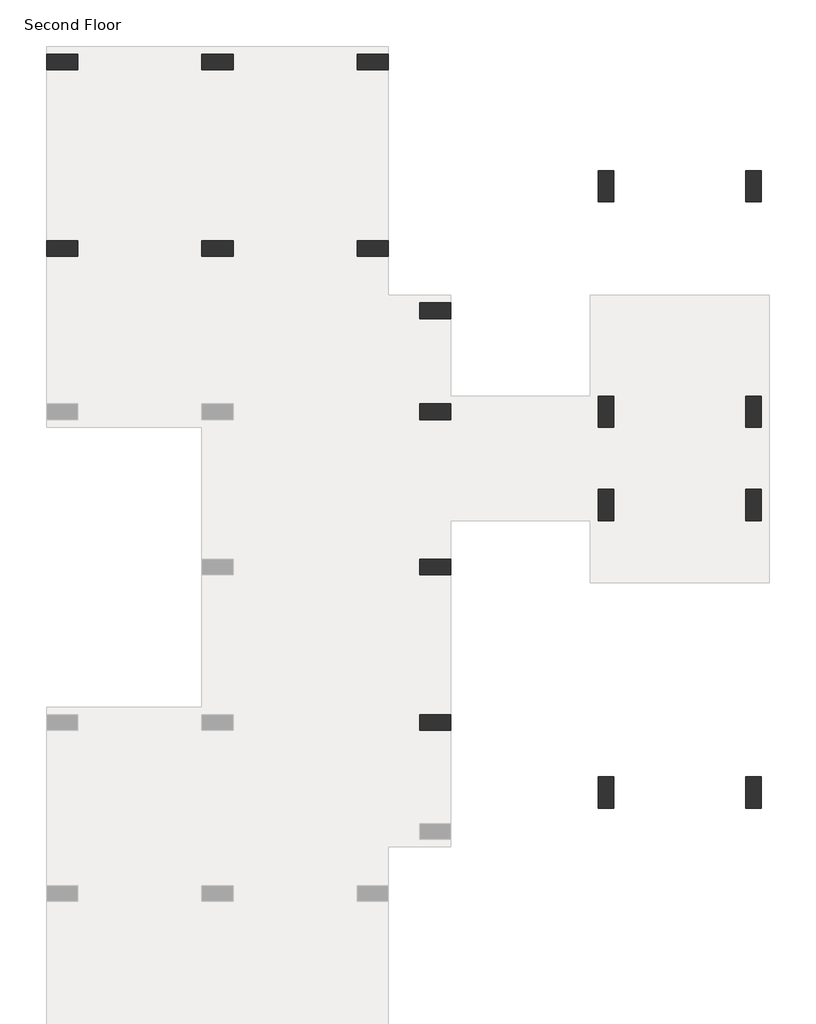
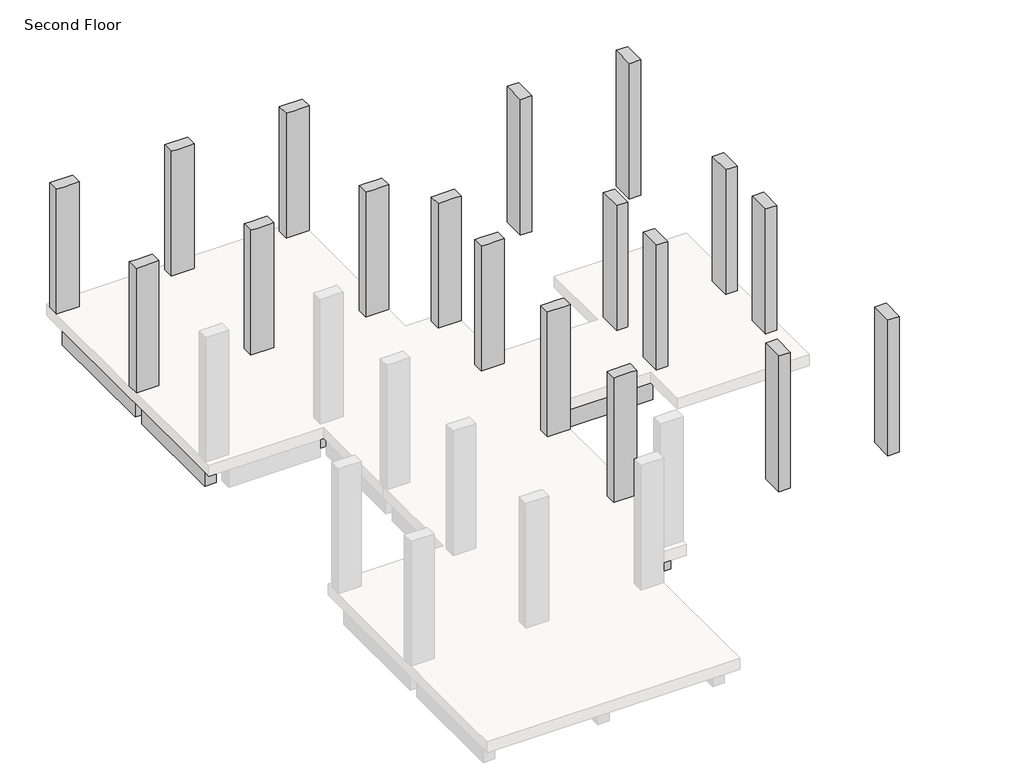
# One storey, part 2 of 2: 22 beams, 18 columns.
"""IFC4 building model written with IfcOpenShell, lengths in millimetres."""

import ifcopenshell
import ifcopenshell.guid

model = None  # the IFC model being written
_history = None  # IfcOwnerHistory: only IFC2X3 demands one
_inside = {}  # id of a spatial element -> (the spatial element, [elements in it])
_under = {}  # id of a project, library or spatial element -> (it, [spatial elements below it])
_declared = {}  # id of a project -> (the project, [libraries it declares])
_typed = {}  # id of a type object -> (the type object, [elements of that type])
_made_of = {}  # id of a material, layer set ... -> (it, [elements and type objects made of it])


def new_model(schema):
    """Start an empty IFC model of exactly this schema.

    Asked for "IFC4X3", IfcOpenShell would pick the latest addendum, in which some entities
    have other attributes; the version numbers below select the first issue.
    IFC2X3 requires an IfcOwnerHistory on every rooted entity: one is made here for all.
    """
    global model, _history
    if schema == "IFC4X3":
        model = ifcopenshell.file(schema_version=(4, 3, 0, 0))
    else:
        model = ifcopenshell.file(schema=schema)
    _inside.clear()
    _under.clear()
    _declared.clear()
    _typed.clear()
    _made_of.clear()
    _history = None
    if model.schema == "IFC2X3":
        org = make("IfcOrganization", Name="unknown")
        user = make(
            "IfcPersonAndOrganization",
            ThePerson=make("IfcPerson", FamilyName="unknown"),
            TheOrganization=org,
        )
        app = make(
            "IfcApplication",
            ApplicationDeveloper=org,
            Version="unknown",
            ApplicationFullName="unknown",
            ApplicationIdentifier="unknown",
        )
        _history = make(
            "IfcOwnerHistory",
            OwningUser=user,
            OwningApplication=app,
            ChangeAction="ADDED",
            CreationDate=0,
        )
    return model


def make(cls, **values):
    """One entity of the class cls with the attributes given. An attribute that is None is left unset."""
    return model.create_entity(
        cls, **{name: value for name, value in values.items() if value is not None}
    )


def rooted(cls, **values):
    """An entity with a GlobalId (a new one), such as an element, a storey or a relation."""
    return make(cls, GlobalId=ifcopenshell.guid.new(), OwnerHistory=_history, **values)


def si_unit(unit_type, name, prefix=None):
    """IfcSIUnit, for example si_unit("LENGTHUNIT", "METRE", prefix="MILLI")."""
    return make("IfcSIUnit", UnitType=unit_type, Prefix=prefix, Name=name)


def assignment(units):
    """IfcUnitAssignment: the units of a project."""
    return None if units is None else make("IfcUnitAssignment", Units=units)


def point(xyz):
    """IfcCartesianPoint."""
    return None if xyz is None else make("IfcCartesianPoint", Coordinates=xyz)


def direction(xyz):
    """IfcDirection."""
    return None if xyz is None else make("IfcDirection", DirectionRatios=xyz)


def frame(location, z_axis=None, x_axis=None):
    """IfcAxis2Placement3D, a coordinate frame: its origin and axes. An axis left out is left unset."""
    return make(
        "IfcAxis2Placement3D",
        Location=point(location),
        Axis=direction(z_axis),
        RefDirection=direction(x_axis),
    )


def origin():
    """The frame at (0, 0, 0) with its axes left unset."""
    return frame((0.0, 0.0, 0.0))


def place(relative_to, where):
    """IfcLocalPlacement: puts the frame where relative to a parent placement (None: the world)."""
    return make(
        "IfcLocalPlacement", PlacementRelTo=relative_to, RelativePlacement=where
    )


def context(
    kind, dimensions, precision=None, world=None, true_north=None, identifier=None
):
    """IfcGeometricRepresentationContext, for example the 3D "Model" context."""
    return make(
        "IfcGeometricRepresentationContext",
        ContextIdentifier=identifier,
        ContextType=kind,
        CoordinateSpaceDimension=dimensions,
        Precision=precision,
        WorldCoordinateSystem=world,
        TrueNorth=true_north,
    )


def project(units=None, contexts=None):
    """IfcProject with its units and contexts."""
    return rooted(
        "IfcProject",
        Name="project",
        RepresentationContexts=contexts,
        UnitsInContext=assignment(units),
    )


def spatial(cls, under=None, at=None, **own):
    """A site, building, storey or space (cls), placed at a placement, below another one or the project."""
    s = rooted(cls, ObjectPlacement=at, **own)
    if under is not None:
        _under.setdefault(under.id(), (under, []))[1].append(s)
    return s


def polyline(points):
    """IfcPolyline through the points."""
    return make("IfcPolyline", Points=[point(p) for p in points])


def outline(outer, holes=None, kind="AREA"):
    """IfcArbitraryClosedProfileDef: a profile drawn as a closed curve; with holes, ...WithVoids."""
    if holes is None:
        return make("IfcArbitraryClosedProfileDef", ProfileType=kind, OuterCurve=outer)
    return make(
        "IfcArbitraryProfileDefWithVoids",
        ProfileType=kind,
        OuterCurve=outer,
        InnerCurves=holes,
    )


def extrude(swept, where, along, depth):
    """IfcExtrudedAreaSolid: the profile swept, set in the frame where, extruded along a direction by depth."""
    return make(
        "IfcExtrudedAreaSolid",
        SweptArea=swept,
        Position=where,
        ExtrudedDirection=direction(along),
        Depth=depth,
    )


def faces_of(points, faces, orient=None, outer=None):
    """IfcFace entities. A face is a list of loops; a loop is a list of indices into points, from 0.

    orient and outer hold one flag for each loop. By default every Orientation is true, the
    first loop of a face is its IfcFaceOuterBound and the others are IfcFaceBound.
    """
    made = []
    for i, loops in enumerate(faces):
        bounds = []
        for j, loop in enumerate(loops):
            is_outer = j == 0 if outer is None else outer[i][j]
            bounds.append(
                make(
                    "IfcFaceOuterBound" if is_outer else "IfcFaceBound",
                    Bound=make("IfcPolyLoop", Polygon=[points[k] for k in loop]),
                    Orientation=True if orient is None else orient[i][j],
                )
            )
        made.append(make("IfcFace", Bounds=bounds))
    return made


def faceted_brep(points, faces, orient=None, outer=None, voids=None):
    """IfcFacetedBrep: a solid bounded by flat faces; with voids (closed shells), ...WithVoids."""
    shared = [point(p) for p in points]
    hull = make("IfcClosedShell", CfsFaces=faces_of(shared, faces, orient, outer))
    if voids is None:
        return make("IfcFacetedBrep", Outer=hull)
    return make(
        "IfcFacetedBrepWithVoids",
        Outer=hull,
        Voids=[
            make(cls, CfsFaces=faces_of(shared, fs, o, b)) for cls, fs, o, b in voids
        ],
    )


def shape(context_of_items, identifier, shape_type, items):
    """IfcShapeRepresentation: the items that make up one representation, for example the "Body"."""
    return make(
        "IfcShapeRepresentation",
        ContextOfItems=context_of_items,
        RepresentationIdentifier=identifier,
        RepresentationType=shape_type,
        Items=items,
    )


def made_of(thing, what):
    """Note that an element or type object is made of a material, layer set ...; save() writes the relation."""
    if what is not None:
        _made_of.setdefault(what.id(), (what, []))[1].append(thing)
    return thing


def element(
    cls,
    number,
    at=None,
    inside=None,
    cuts=None,
    type_object=None,
    material=None,
    context=None,
    identifier="Body",
    shape_type=None,
    held_by="IfcProductDefinitionShape",
    body=None,
    shapes=None,
    **own,
):
    """One element of the class cls, such as IfcWall. Its Tag is "e" and its number.

    at: its placement. inside: the storey or other place that contains it. cuts: it is an
    opening in that element (IfcRelVoidsElement). A single representation is given by context,
    identifier, shape_type and body (its items); several are given by shapes. held_by: the class
    of the entity that holds the representations. save() writes the other relations.
    """
    e = rooted(cls, Tag="e%d" % number, ObjectPlacement=at, **own)
    if body is not None:
        shapes = [shape(context, identifier, shape_type, body)]
    if shapes is not None:
        e.Representation = make(held_by, Representations=shapes)
    if inside is not None:
        _inside.setdefault(inside.id(), (inside, []))[1].append(e)
    if cuts is not None:
        rooted(
            "IfcRelVoidsElement", RelatingBuildingElement=cuts, RelatedOpeningElement=e
        )
    if type_object is not None:
        _typed.setdefault(type_object.id(), (type_object, []))[1].append(e)
    return made_of(e, material)


def aggregate(whole, parts):
    """IfcRelAggregates: a whole, such as a stair, and the parts it consists of."""
    return rooted("IfcRelAggregates", RelatingObject=whole, RelatedObjects=parts)


def save(model, path):
    """Write the relations noted so far, then the file.

    IfcRelAggregates (storeys below a building ...), IfcRelContainedInSpatialStructure (elements
    in a storey), IfcRelDefinesByType, IfcRelAssociatesMaterial and IfcRelDeclares: one each for
    every whole, place, type object, material and project.
    """
    for whole, parts in _under.values():
        aggregate(whole, parts)
    for where, things in _inside.values():
        rooted(
            "IfcRelContainedInSpatialStructure",
            RelatedElements=things,
            RelatingStructure=where,
        )
    for kind, things in _typed.values():
        rooted("IfcRelDefinesByType", RelatedObjects=things, RelatingType=kind)
    for what, things in _made_of.values():
        rooted("IfcRelAssociatesMaterial", RelatedObjects=things, RelatingMaterial=what)
    for by, libraries in _declared.values():
        rooted("IfcRelDeclares", RelatingContext=by, RelatedDefinitions=libraries)
    model.write(path)


model = new_model("IFC4")

# Units and contexts
model_context = context("Model", 3, world=origin())
ifc_project = project(units=[si_unit("LENGTHUNIT", "METRE", prefix="MILLI")], contexts=[model_context])

# Site, building, storey
site = spatial("IfcSite", under=ifc_project)
building = spatial("IfcBuilding", under=site)
storey = spatial("IfcBuildingStorey", under=building, Name="Second Floor", Elevation=3810.0)

# Beams
placement = place(None, origin())
element("IfcBeam", 1, ObjectType="Concrete-Rectangular Beam : 12 x 24", at=placement, inside=storey, context=model_context, shape_type="SweptSolid", body=[
    extrude(outline(polyline([(-20351.2093661, 22096.7691779), (-20351.2093661, 22401.5691779), (-17912.8093661, 22401.5691779), (-17912.8093661, 22096.7691779), (-20351.2093661, 22096.7691779)])), frame((0.0, 0.0, 2895.6), z_axis=(0.0, 0.0, 1.0), x_axis=(1.0, 0.0, 0.0)), (0.0, 0.0, 1.0), 609.6),
])
element("IfcBeam", 2, ObjectType="Concrete-Rectangular Beam : 12 x 24", at=placement, inside=storey, context=model_context, shape_type="SweptSolid", body=[
    extrude(outline(polyline([(-17303.2093661, 22096.7691779), (-17303.2093661, 22401.5691779), (-14864.8093661, 22401.5691779), (-14864.8093661, 22096.7691779), (-17303.2093661, 22096.7691779)])), frame((0.0, 0.0, 2895.6), z_axis=(0.0, 0.0, 1.0), x_axis=(1.0, 0.0, 0.0)), (0.0, 0.0, 1.0), 609.6),
])
element("IfcBeam", 3, ObjectType="Concrete-Rectangular Beam : 12 x 24", at=placement, inside=storey, context=model_context, shape_type="SweptSolid", body=[
    extrude(outline(polyline([(-14712.4093661, 22096.7691779), (-14407.6093661, 22096.7691779), (-14407.6093661, 18743.9691779), (-14712.4093661, 18743.9691779), (-14712.4093661, 22096.7691779)])), frame((0.0, 0.0, 2895.6), z_axis=(0.0, 0.0, 1.0), x_axis=(1.0, 0.0, 0.0)), (0.0, 0.0, 1.0), 609.6),
])
element("IfcBeam", 4, ObjectType="Concrete-Rectangular Beam : 12 x 24", at=placement, inside=storey, context=model_context, shape_type="Brep", body=[
    faceted_brep([(-14712.4093661, 17219.9691779, 3505.2), (-14407.6093661, 17219.9691779, 3505.2), (-14407.6093661, 17524.7691779, 3505.2), (-14407.6093661, 18439.1691779, 3505.2), (-14712.4093661, 18439.1691779, 3505.2), (-14712.4093661, 17219.9691779, 2895.6), (-14712.4093661, 18439.1691779, 2895.6), (-14407.6093661, 17219.9691779, 2895.6), (-14407.6093661, 18439.1691779, 2895.6), (-14407.6093661, 17524.7691779, 2895.6)], [[[0, 1, 2, 3, 4]], [[5, 0, 4, 6]], [[7, 5, 6, 8, 9]], [[1, 7, 9, 8, 3, 2]], [[4, 3, 8, 6]], [[1, 0, 5, 7]]]),
])
element("IfcBeam", 5, ObjectType="Concrete-Rectangular Beam : 12 x 24", at=placement, inside=storey, context=model_context, shape_type="SweptSolid", body=[
    extrude(outline(polyline([(-14407.6093661, 17219.9691779), (-14407.6093661, 17524.7691779), (-13645.6093661, 17524.7691779), (-13645.6093661, 17219.9691779), (-14407.6093661, 17219.9691779)])), frame((0.0, 0.0, 2895.6), z_axis=(0.0, 0.0, 1.0), x_axis=(1.0, 0.0, 0.0)), (0.0, 0.0, 1.0), 609.6),
])
element("IfcBeam", 6, ObjectType="Concrete-Rectangular Beam : 12 x 24", at=placement, inside=storey, context=model_context, shape_type="SweptSolid", body=[
    extrude(outline(polyline([(-13493.2093661, 17219.9691779), (-13188.4093661, 17219.9691779), (-13188.4093661, 15543.5691779), (-13493.2093661, 15543.5691779), (-13493.2093661, 17219.9691779)])), frame((0.0, 0.0, 2895.6), z_axis=(0.0, 0.0, 1.0), x_axis=(1.0, 0.0, 0.0)), (0.0, 0.0, 1.0), 609.6),
])
element("IfcBeam", 7, ObjectType="Concrete-Rectangular Beam : 12 x 24", at=placement, inside=storey, context=model_context, shape_type="Brep", body=[
    faceted_brep([(-13188.4093661, 15238.7691779, 3505.2), (-13493.2093661, 15238.7691779, 3505.2), (-13493.2093661, 12495.5691779, 3505.2), (-13188.4093661, 12495.5691779, 3505.2), (-13188.4093661, 13409.9691779, 3505.2), (-13188.4093661, 13714.7691779, 3505.2), (-13493.2093661, 15238.7691779, 2895.6), (-13493.2093661, 12495.5691779, 2895.6), (-13188.4093661, 15238.7691779, 2895.6), (-13188.4093661, 13714.7691779, 2895.6), (-13188.4093661, 13409.9691779, 2895.6), (-13188.4093661, 12495.5691779, 2895.6)], [[[0, 1, 2, 3, 4, 5]], [[1, 6, 7, 2]], [[6, 8, 9, 10, 11, 7]], [[8, 0, 5, 4, 3, 11, 10, 9]], [[6, 1, 0, 8]], [[3, 2, 7, 11]]]),
])
element("IfcBeam", 8, ObjectType="Concrete-Rectangular Beam : 12 x 24", at=placement, inside=storey, context=model_context, shape_type="SweptSolid", body=[
    extrude(outline(polyline([(-13493.2093661, 12190.7691779), (-13188.4093661, 12190.7691779), (-13188.4093661, 9447.5691779), (-13493.2093661, 9447.5691779), (-13493.2093661, 12190.7691779)])), frame((0.0, 0.0, 2895.6), z_axis=(0.0, 0.0, 1.0), x_axis=(1.0, 0.0, 0.0)), (0.0, 0.0, 1.0), 609.6),
])
element("IfcBeam", 9, ObjectType="Concrete-Rectangular Beam : 12 x 24", at=placement, inside=storey, context=model_context, shape_type="SweptSolid", body=[
    extrude(outline(polyline([(-13493.2093661, 9142.7691779), (-13188.4093661, 9142.7691779), (-13188.4093661, 7313.9691779), (-13493.2093661, 7313.9691779), (-13493.2093661, 9142.7691779)])), frame((0.0, 0.0, 2895.6), z_axis=(0.0, 0.0, 1.0), x_axis=(1.0, 0.0, 0.0)), (0.0, 0.0, 1.0), 609.6),
])
element("IfcBeam", 10, ObjectType="Concrete-Rectangular Beam : 12 x 24", at=placement, inside=storey, context=model_context, shape_type="SweptSolid", body=[
    extrude(outline(polyline([(-20503.6093661, 15543.5691779), (-20808.4093661, 15543.5691779), (-20808.4093661, 18439.1691779), (-20503.6093661, 18439.1691779), (-20503.6093661, 15543.5691779)])), frame((0.0, 0.0, 2895.6), z_axis=(0.0, 0.0, 1.0), x_axis=(1.0, 0.0, 0.0)), (0.0, 0.0, 1.0), 609.6),
])
element("IfcBeam", 11, ObjectType="Concrete-Rectangular Beam : 12 x 24", at=placement, inside=storey, context=model_context, shape_type="SweptSolid", body=[
    extrude(outline(polyline([(-20808.4093661, 22096.7691779), (-20503.6093661, 22096.7691779), (-20503.6093661, 18743.9691779), (-20808.4093661, 18743.9691779), (-20808.4093661, 22096.7691779)])), frame((0.0, 0.0, 2895.6), z_axis=(0.0, 0.0, 1.0), x_axis=(1.0, 0.0, 0.0)), (0.0, 0.0, 1.0), 609.6),
])
element("IfcBeam", 12, ObjectType="Concrete-Rectangular Beam : 12 x 24", at=placement, inside=storey, context=model_context, shape_type="SweptSolid", body=[
    extrude(outline(polyline([(-20351.2093661, 18439.1691779), (-20351.2093661, 18743.9691779), (-17912.8093661, 18743.9691779), (-17912.8093661, 18439.1691779), (-20351.2093661, 18439.1691779)])), frame((0.0, 0.0, 2895.6), z_axis=(0.0, 0.0, 1.0), x_axis=(1.0, 0.0, 0.0)), (0.0, 0.0, 1.0), 609.6),
])
element("IfcBeam", 13, ObjectType="Concrete-Rectangular Beam : 12 x 24", at=placement, inside=storey, context=model_context, shape_type="SweptSolid", body=[
    extrude(outline(polyline([(-17455.6093661, 18743.9691779), (-17760.4093661, 18743.9691779), (-17760.4093661, 22096.7691779), (-17455.6093661, 22096.7691779), (-17455.6093661, 18743.9691779)])), frame((0.0, 0.0, 2895.6), z_axis=(0.0, 0.0, 1.0), x_axis=(1.0, 0.0, 0.0)), (0.0, 0.0, 1.0), 609.6),
])
element("IfcBeam", 14, ObjectType="Concrete-Rectangular Beam : 12 x 24", at=placement, inside=storey, context=model_context, shape_type="SweptSolid", body=[
    extrude(outline(polyline([(-17760.4093661, 18439.1691779), (-17455.6093661, 18439.1691779), (-17455.6093661, 15543.5691779), (-17760.4093661, 15543.5691779), (-17760.4093661, 18439.1691779)])), frame((0.0, 0.0, 2895.6), z_axis=(0.0, 0.0, 1.0), x_axis=(1.0, 0.0, 0.0)), (0.0, 0.0, 1.0), 609.6),
])
element("IfcBeam", 15, ObjectType="Concrete-Rectangular Beam : 12 x 24", at=placement, inside=storey, context=model_context, shape_type="SweptSolid", body=[
    extrude(outline(polyline([(-17303.2093661, 9142.7691779), (-17303.2093661, 9447.5691779), (-13645.6093661, 9447.5691779), (-13645.6093661, 9142.7691779), (-17303.2093661, 9142.7691779)])), frame((0.0, 0.0, 2895.6), z_axis=(0.0, 0.0, 1.0), x_axis=(1.0, 0.0, 0.0)), (0.0, 0.0, 1.0), 609.6),
])
element("IfcBeam", 16, ObjectType="Concrete-Rectangular Beam : 12 x 24", at=placement, inside=storey, context=model_context, shape_type="SweptSolid", body=[
    extrude(outline(polyline([(-13645.6093661, 12495.5691779), (-13645.6093661, 12190.7691779), (-17303.2093661, 12190.7691779), (-17303.2093661, 12495.5691779), (-13645.6093661, 12495.5691779)])), frame((0.0, 0.0, 2895.6), z_axis=(0.0, 0.0, 1.0), x_axis=(1.0, 0.0, 0.0)), (0.0, 0.0, 1.0), 609.6),
])
element("IfcBeam", 17, ObjectType="Concrete-Rectangular Beam : 12 x 24", at=placement, inside=storey, context=model_context, shape_type="SweptSolid", body=[
    extrude(outline(polyline([(-17303.2093661, 15238.7691779), (-17303.2093661, 15543.5691779), (-13645.6093661, 15543.5691779), (-13645.6093661, 15238.7691779), (-17303.2093661, 15238.7691779)])), frame((0.0, 0.0, 2895.6), z_axis=(0.0, 0.0, 1.0), x_axis=(1.0, 0.0, 0.0)), (0.0, 0.0, 1.0), 609.6),
])
element("IfcBeam", 18, ObjectType="Concrete-Rectangular Beam : 12 x 24", at=placement, inside=storey, context=model_context, shape_type="SweptSolid", body=[
    extrude(outline(polyline([(-17303.2093661, 18439.1691779), (-17303.2093661, 18743.9691779), (-14864.8093661, 18743.9691779), (-14864.8093661, 18439.1691779), (-17303.2093661, 18439.1691779)])), frame((0.0, 0.0, 2895.6), z_axis=(0.0, 0.0, 1.0), x_axis=(1.0, 0.0, 0.0)), (0.0, 0.0, 1.0), 609.6),
])
element("IfcBeam", 19, ObjectType="Concrete-Rectangular Beam : 12 x 24", at=placement, inside=storey, context=model_context, shape_type="SweptSolid", body=[
    extrude(outline(polyline([(-10140.4093661, 13714.7691779), (-10140.4093661, 13409.9691779), (-13188.4093661, 13409.9691779), (-13188.4093661, 13714.7691779), (-10140.4093661, 13714.7691779)])), frame((0.0, 0.0, 2895.6), z_axis=(0.0, 0.0, 1.0), x_axis=(1.0, 0.0, 0.0)), (0.0, 0.0, 1.0), 609.6),
])
element("IfcBeam", 20, ObjectType="Concrete-Rectangular Beam : 12 x 24", at=placement, inside=storey, context=model_context, shape_type="SweptSolid", body=[
    extrude(outline(polyline([(-10140.4093661, 15543.5691779), (-10140.4093661, 15238.7691779), (-13036.0093661, 15238.7691779), (-13036.0093661, 15543.5691779), (-10140.4093661, 15543.5691779)])), frame((0.0, 0.0, 2895.6), z_axis=(0.0, 0.0, 1.0), x_axis=(1.0, 0.0, 0.0)), (0.0, 0.0, 1.0), 609.6),
])
element("IfcBeam", 21, ObjectType="Concrete-Rectangular Beam : 12 x 24", at=placement, inside=storey, context=model_context, shape_type="SweptSolid", body=[
    extrude(outline(polyline([(-9835.6093661, 15238.7691779), (-9835.6093661, 15543.5691779), (-7244.8093661, 15543.5691779), (-7244.8093661, 15238.7691779), (-9835.6093661, 15238.7691779)])), frame((0.0, 0.0, 2895.6), z_axis=(0.0, 0.0, 1.0), x_axis=(1.0, 0.0, 0.0)), (0.0, 0.0, 1.0), 609.6),
])
element("IfcBeam", 22, ObjectType="Concrete-Rectangular Beam : 12 x 24", at=placement, inside=storey, context=model_context, shape_type="SweptSolid", body=[
    extrude(outline(polyline([(-9835.6093661, 13409.9691779), (-9835.6093661, 13714.7691779), (-7244.8093661, 13714.7691779), (-7244.8093661, 13409.9691779), (-9835.6093661, 13409.9691779)])), frame((0.0, 0.0, 2895.6), z_axis=(0.0, 0.0, 1.0), x_axis=(1.0, 0.0, 0.0)), (0.0, 0.0, 1.0), 609.6),
])

# Columns
element("IfcColumn", 23, ObjectType="Concrete-Rectangular-Column : 12 x 24", at=placement, inside=storey, context=model_context, shape_type="Brep", body=[
    faceted_brep([(-20960.8093661, 22401.5691779, 3810.0), (-20351.2093661, 22401.5691779, 3810.0), (-20351.2093661, 22096.7691779, 3810.0), (-20960.8093661, 22096.7691779, 3810.0), (-20960.8093661, 22401.5691779, 7315.2), (-20351.2093661, 22401.5691779, 7315.2), (-20351.2093661, 22401.5691779, 6705.6), (-20351.2093661, 22096.7691779, 7315.2), (-20351.2093661, 22096.7691779, 6705.6), (-20503.6093661, 22096.7691779, 7315.2), (-20808.4093661, 22096.7691779, 7315.2), (-20960.8093661, 22096.7691779, 7315.2)], [[[0, 1, 2, 3]], [[4, 5, 6, 1, 0]], [[5, 7, 8, 2, 1, 6]], [[7, 9, 10, 11, 3, 2, 8]], [[11, 4, 0, 3]], [[4, 11, 10, 9, 7, 5]]]),
])
element("IfcColumn", 24, ObjectType="Concrete-Rectangular-Column : 12 x 24", at=placement, inside=storey, context=model_context, shape_type="Brep", body=[
    faceted_brep([(-17912.8093661, 22401.5691779, 3810.0), (-17303.2093661, 22401.5691779, 3810.0), (-17303.2093661, 22096.7691779, 3810.0), (-17912.8093661, 22096.7691779, 3810.0), (-17912.8093661, 22401.5691779, 7315.2), (-17303.2093661, 22401.5691779, 7315.2), (-17303.2093661, 22401.5691779, 6705.6), (-17912.8093661, 22401.5691779, 6705.6), (-17303.2093661, 22096.7691779, 7315.2), (-17303.2093661, 22096.7691779, 6705.6), (-17455.6093661, 22096.7691779, 7315.2), (-17760.4093661, 22096.7691779, 7315.2), (-17912.8093661, 22096.7691779, 7315.2), (-17912.8093661, 22096.7691779, 6705.6)], [[[0, 1, 2, 3]], [[4, 5, 6, 1, 0, 7]], [[5, 8, 9, 2, 1, 6]], [[8, 10, 11, 12, 13, 3, 2, 9]], [[12, 4, 7, 0, 3, 13]], [[4, 12, 11, 10, 8, 5]]]),
])
element("IfcColumn", 25, ObjectType="Concrete-Rectangular-Column : 12 x 24", at=placement, inside=storey, context=model_context, shape_type="Brep", body=[
    faceted_brep([(-14864.8093661, 22401.5691779, 3810.0), (-14255.2093661, 22401.5691779, 3810.0), (-14255.2093661, 22096.7691779, 3810.0), (-14864.8093661, 22096.7691779, 3810.0), (-14864.8093661, 22401.5691779, 7315.2), (-14255.2093661, 22401.5691779, 7315.2), (-14864.8093661, 22401.5691779, 6705.6), (-14255.2093661, 22096.7691779, 7315.2), (-14407.6093661, 22096.7691779, 7315.2), (-14712.4093661, 22096.7691779, 7315.2), (-14864.8093661, 22096.7691779, 7315.2), (-14864.8093661, 22096.7691779, 6705.6)], [[[0, 1, 2, 3]], [[4, 5, 1, 0, 6]], [[5, 7, 2, 1]], [[7, 8, 9, 10, 11, 3, 2]], [[10, 4, 6, 0, 3, 11]], [[4, 10, 9, 8, 7, 5]]]),
])
element("IfcColumn", 26, ObjectType="Concrete-Rectangular-Column : 12 x 24", at=placement, inside=storey, context=model_context, shape_type="Brep", body=[
    faceted_brep([(-20960.8093661, 18743.9691779, 3810.0), (-20351.2093661, 18743.9691779, 3810.0), (-20351.2093661, 18439.1691779, 3810.0), (-20960.8093661, 18439.1691779, 3810.0), (-20960.8093661, 18743.9691779, 7315.2), (-20808.4093661, 18743.9691779, 7315.2), (-20503.6093661, 18743.9691779, 7315.2), (-20351.2093661, 18743.9691779, 7315.2), (-20351.2093661, 18743.9691779, 6705.6), (-20351.2093661, 18439.1691779, 7315.2), (-20351.2093661, 18439.1691779, 6705.6), (-20503.6093661, 18439.1691779, 7315.2), (-20808.4093661, 18439.1691779, 7315.2), (-20960.8093661, 18439.1691779, 7315.2)], [[[0, 1, 2, 3]], [[4, 5, 6, 7, 8, 1, 0]], [[7, 9, 10, 2, 1, 8]], [[9, 11, 12, 13, 3, 2, 10]], [[13, 4, 0, 3]], [[4, 13, 12, 11, 9, 7, 6, 5]]]),
])
element("IfcColumn", 27, ObjectType="Concrete-Rectangular-Column : 12 x 24", at=placement, inside=storey, context=model_context, shape_type="Brep", body=[
    faceted_brep([(-17912.8093661, 18743.9691779, 3810.0), (-17303.2093661, 18743.9691779, 3810.0), (-17303.2093661, 18439.1691779, 3810.0), (-17912.8093661, 18439.1691779, 3810.0), (-17912.8093661, 18743.9691779, 7315.2), (-17760.4093661, 18743.9691779, 7315.2), (-17455.6093661, 18743.9691779, 7315.2), (-17303.2093661, 18743.9691779, 7315.2), (-17303.2093661, 18743.9691779, 6705.6), (-17912.8093661, 18743.9691779, 6705.6), (-17303.2093661, 18439.1691779, 7315.2), (-17303.2093661, 18439.1691779, 6705.6), (-17455.6093661, 18439.1691779, 7315.2), (-17760.4093661, 18439.1691779, 7315.2), (-17912.8093661, 18439.1691779, 7315.2), (-17912.8093661, 18439.1691779, 6705.6)], [[[0, 1, 2, 3]], [[4, 5, 6, 7, 8, 1, 0, 9]], [[7, 10, 11, 2, 1, 8]], [[10, 12, 13, 14, 15, 3, 2, 11]], [[14, 4, 9, 0, 3, 15]], [[4, 14, 13, 12, 10, 7, 6, 5]]]),
])
element("IfcColumn", 28, ObjectType="Concrete-Rectangular-Column : 12 x 24", at=placement, inside=storey, context=model_context, shape_type="Brep", body=[
    faceted_brep([(-14864.8093661, 18743.9691779, 3810.0), (-14255.2093661, 18743.9691779, 3810.0), (-14255.2093661, 18439.1691779, 3810.0), (-14864.8093661, 18439.1691779, 3810.0), (-14864.8093661, 18743.9691779, 7315.2), (-14712.4093661, 18743.9691779, 7315.2), (-14407.6093661, 18743.9691779, 7315.2), (-14255.2093661, 18743.9691779, 7315.2), (-14864.8093661, 18743.9691779, 6705.6), (-14255.2093661, 18439.1691779, 7315.2), (-14407.6093661, 18439.1691779, 7315.2), (-14712.4093661, 18439.1691779, 7315.2), (-14864.8093661, 18439.1691779, 7315.2), (-14864.8093661, 18439.1691779, 6705.6)], [[[0, 1, 2, 3]], [[4, 5, 6, 7, 1, 0, 8]], [[7, 9, 2, 1]], [[9, 10, 11, 12, 13, 3, 2]], [[12, 4, 8, 0, 3, 13]], [[4, 12, 11, 10, 9, 7, 6, 5]]]),
])
element("IfcColumn", 29, ObjectType="Concrete-Rectangular-Column : 12 x 24", at=placement, inside=storey, context=model_context, shape_type="Brep", body=[
    faceted_brep([(-13645.6093661, 17524.7691779, 3810.0), (-13036.0093661, 17524.7691779, 3810.0), (-13036.0093661, 17219.9691779, 3810.0), (-13645.6093661, 17219.9691779, 3810.0), (-13645.6093661, 17524.7691779, 7315.2), (-13036.0093661, 17524.7691779, 7315.2), (-13645.6093661, 17524.7691779, 6705.6), (-13036.0093661, 17219.9691779, 7315.2), (-13188.4093661, 17219.9691779, 7315.2), (-13493.2093661, 17219.9691779, 7315.2), (-13645.6093661, 17219.9691779, 7315.2), (-13645.6093661, 17219.9691779, 6705.6)], [[[0, 1, 2, 3]], [[4, 5, 1, 0, 6]], [[5, 7, 2, 1]], [[7, 8, 9, 10, 11, 3, 2]], [[10, 4, 6, 0, 3, 11]], [[4, 10, 9, 8, 7, 5]]]),
])
element("IfcColumn", 30, ObjectType="Concrete-Rectangular-Column : 12 x 24", at=placement, inside=storey, context=model_context, shape_type="Brep", body=[
    faceted_brep([(-13645.6093661, 15543.5691779, 3810.0), (-13036.0093661, 15543.5691779, 3810.0), (-13036.0093661, 15238.7691779, 3810.0), (-13645.6093661, 15238.7691779, 3810.0), (-13645.6093661, 15543.5691779, 7315.2), (-13493.2093661, 15543.5691779, 7315.2), (-13188.4093661, 15543.5691779, 7315.2), (-13036.0093661, 15543.5691779, 7315.2), (-13036.0093661, 15543.5691779, 6705.6), (-13645.6093661, 15543.5691779, 6705.6), (-13036.0093661, 15238.7691779, 7315.2), (-13036.0093661, 15238.7691779, 6705.6), (-13188.4093661, 15238.7691779, 7315.2), (-13493.2093661, 15238.7691779, 7315.2), (-13645.6093661, 15238.7691779, 7315.2), (-13645.6093661, 15238.7691779, 6705.6)], [[[0, 1, 2, 3]], [[4, 5, 6, 7, 8, 1, 0, 9]], [[7, 10, 11, 2, 1, 8]], [[10, 12, 13, 14, 15, 3, 2, 11]], [[14, 4, 9, 0, 3, 15]], [[4, 14, 13, 12, 10, 7, 6, 5]]]),
])
element("IfcColumn", 31, ObjectType="Concrete-Rectangular-Column : 12 x 24", at=placement, inside=storey, context=model_context, shape_type="SweptSolid", body=[
    extrude(outline(polyline([(-10140.4093661, 15086.3691779), (-10140.4093661, 15695.9691779), (-9835.6093661, 15695.9691779), (-9835.6093661, 15086.3691779), (-10140.4093661, 15086.3691779)])), frame((0.0, 0.0, 3810.0), z_axis=(0.0, 0.0, 1.0), x_axis=(1.0, 0.0, 0.0)), (0.0, 0.0, 1.0), 3505.2),
])
element("IfcColumn", 32, ObjectType="Concrete-Rectangular-Column : 12 x 24", at=placement, inside=storey, context=model_context, shape_type="SweptSolid", body=[
    extrude(outline(polyline([(-7244.8093661, 15086.3691779), (-7244.8093661, 15695.9691779), (-6940.0093661, 15695.9691779), (-6940.0093661, 15086.3691779), (-7244.8093661, 15086.3691779)])), frame((0.0, 0.0, 3810.0), z_axis=(0.0, 0.0, 1.0), x_axis=(1.0, 0.0, 0.0)), (0.0, 0.0, 1.0), 3505.2),
])
element("IfcColumn", 33, ObjectType="Concrete-Rectangular-Column : 12 x 24", at=placement, inside=storey, context=model_context, shape_type="SweptSolid", body=[
    extrude(outline(polyline([(-10140.4093661, 13257.5691779), (-10140.4093661, 13867.1691779), (-9835.6093661, 13867.1691779), (-9835.6093661, 13257.5691779), (-10140.4093661, 13257.5691779)])), frame((0.0, 0.0, 3810.0), z_axis=(0.0, 0.0, 1.0), x_axis=(1.0, 0.0, 0.0)), (0.0, 0.0, 1.0), 3505.2),
])
element("IfcColumn", 34, ObjectType="Concrete-Rectangular-Column : 12 x 24", at=placement, inside=storey, context=model_context, shape_type="SweptSolid", body=[
    extrude(outline(polyline([(-7244.8093661, 13257.5691779), (-7244.8093661, 13867.1691779), (-6940.0093661, 13867.1691779), (-6940.0093661, 13257.5691779), (-7244.8093661, 13257.5691779)])), frame((0.0, 0.0, 3810.0), z_axis=(0.0, 0.0, 1.0), x_axis=(1.0, 0.0, 0.0)), (0.0, 0.0, 1.0), 3505.2),
])
element("IfcColumn", 35, ObjectType="Concrete-Rectangular-Column : 12 x 24", at=placement, inside=storey, context=model_context, shape_type="Brep", body=[
    faceted_brep([(-13645.6093661, 12495.5691779, 3810.0), (-13036.0093661, 12495.5691779, 3810.0), (-13036.0093661, 12190.7691779, 3810.0), (-13645.6093661, 12190.7691779, 3810.0), (-13645.6093661, 12495.5691779, 7315.2), (-13493.2093661, 12495.5691779, 7315.2), (-13188.4093661, 12495.5691779, 7315.2), (-13036.0093661, 12495.5691779, 7315.2), (-13645.6093661, 12495.5691779, 6705.6), (-13036.0093661, 12190.7691779, 7315.2), (-13188.4093661, 12190.7691779, 7315.2), (-13493.2093661, 12190.7691779, 7315.2), (-13645.6093661, 12190.7691779, 7315.2), (-13645.6093661, 12190.7691779, 6705.6)], [[[0, 1, 2, 3]], [[4, 5, 6, 7, 1, 0, 8]], [[7, 9, 2, 1]], [[9, 10, 11, 12, 13, 3, 2]], [[12, 4, 8, 0, 3, 13]], [[4, 12, 11, 10, 9, 7, 6, 5]]]),
])
element("IfcColumn", 36, ObjectType="Concrete-Rectangular-Column : 12 x 24", at=placement, inside=storey, context=model_context, shape_type="Brep", body=[
    faceted_brep([(-13645.6093661, 9447.5691779, 3810.0), (-13036.0093661, 9447.5691779, 3810.0), (-13036.0093661, 9142.7691779, 3810.0), (-13645.6093661, 9142.7691779, 3810.0), (-13645.6093661, 9447.5691779, 7315.2), (-13493.2093661, 9447.5691779, 7315.2), (-13188.4093661, 9447.5691779, 7315.2), (-13036.0093661, 9447.5691779, 7315.2), (-13645.6093661, 9447.5691779, 6705.6), (-13036.0093661, 9142.7691779, 7315.2), (-13188.4093661, 9142.7691779, 7315.2), (-13493.2093661, 9142.7691779, 7315.2), (-13645.6093661, 9142.7691779, 7315.2), (-13645.6093661, 9142.7691779, 6705.6)], [[[0, 1, 2, 3]], [[4, 5, 6, 7, 1, 0, 8]], [[7, 9, 2, 1]], [[9, 10, 11, 12, 13, 3, 2]], [[12, 4, 8, 0, 3, 13]], [[4, 12, 11, 10, 9, 7, 6, 5]]]),
])
element("IfcColumn", 37, ObjectType="Concrete-Rectangular-Column : 12 x 24", at=placement, inside=storey, context=model_context, shape_type="SweptSolid", body=[
    extrude(outline(polyline([(-10140.4093661, 19505.9691779), (-10140.4093661, 20115.5691779), (-9835.6093661, 20115.5691779), (-9835.6093661, 19505.9691779), (-10140.4093661, 19505.9691779)])), frame((0.0, 0.0, 3810.0), z_axis=(0.0, 0.0, 1.0), x_axis=(1.0, 0.0, 0.0)), (0.0, 0.0, 1.0), 3810.0),
])
element("IfcColumn", 38, ObjectType="Concrete-Rectangular-Column : 12 x 24", at=placement, inside=storey, context=model_context, shape_type="SweptSolid", body=[
    extrude(outline(polyline([(-7244.8093661, 19505.9691779), (-7244.8093661, 20115.5691779), (-6940.0093661, 20115.5691779), (-6940.0093661, 19505.9691779), (-7244.8093661, 19505.9691779)])), frame((0.0, 0.0, 3810.0), z_axis=(0.0, 0.0, 1.0), x_axis=(1.0, 0.0, 0.0)), (0.0, 0.0, 1.0), 3810.0),
])
element("IfcColumn", 39, ObjectType="Concrete-Rectangular-Column : 12 x 24", at=placement, inside=storey, context=model_context, shape_type="SweptSolid", body=[
    extrude(outline(polyline([(-10140.4093661, 7618.7691779), (-10140.4093661, 8228.3691779), (-9835.6093661, 8228.3691779), (-9835.6093661, 7618.7691779), (-10140.4093661, 7618.7691779)])), frame((0.0, 0.0, 3810.0), z_axis=(0.0, 0.0, 1.0), x_axis=(1.0, 0.0, 0.0)), (0.0, 0.0, 1.0), 3810.0),
])
element("IfcColumn", 40, ObjectType="Concrete-Rectangular-Column : 12 x 24", at=placement, inside=storey, context=model_context, shape_type="SweptSolid", body=[
    extrude(outline(polyline([(-7244.8093661, 7618.7691779), (-7244.8093661, 8228.3691779), (-6940.0093661, 8228.3691779), (-6940.0093661, 7618.7691779), (-7244.8093661, 7618.7691779)])), frame((0.0, 0.0, 3810.0), z_axis=(0.0, 0.0, 1.0), x_axis=(1.0, 0.0, 0.0)), (0.0, 0.0, 1.0), 3810.0),
])

save(model, "model.ifc")
